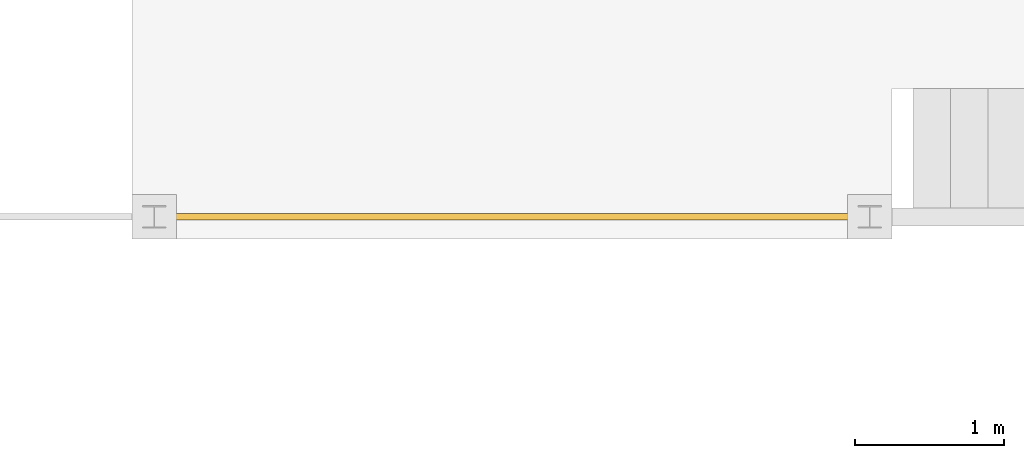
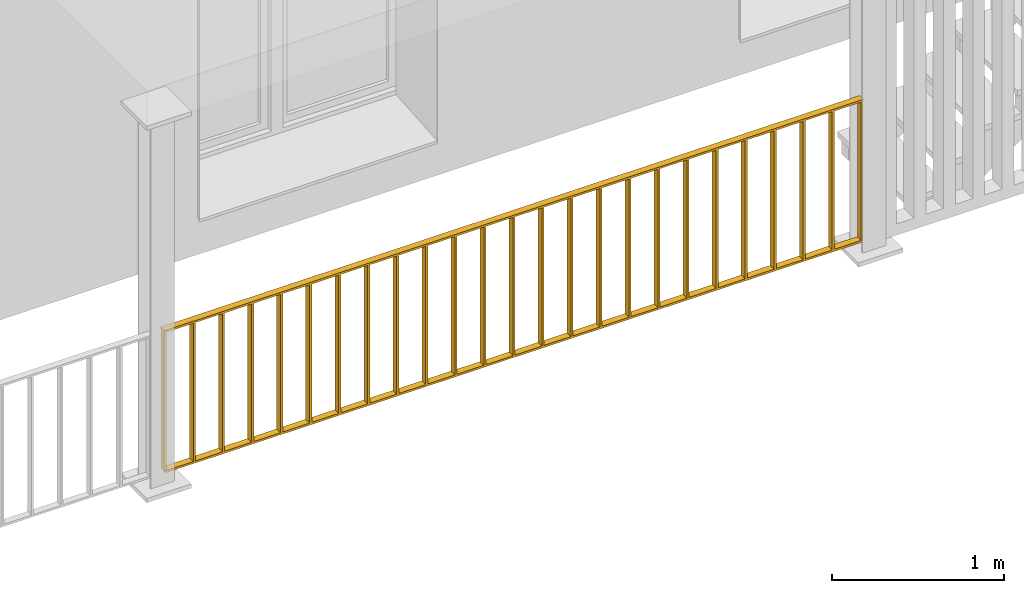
# One storey, part 20 of 34: 1 railing.
"""IFC4 building model written with IfcOpenShell, lengths in millimetres."""

from ifc_helpers import new_model, entity, si_unit, converted_unit, derived_unit, direction, frame, origin_with_axes, place, context, subcontext, project, spatial, polygons, material, constituent, constituent_set, type_object, element, save


model = new_model("IFC4")

# Units and contexts
model_context = context("Model", 3, precision=0.01, world=origin_with_axes(), true_north=direction((0.0, 1.0)))
body_context = subcontext(model_context, "Body", "Model", "MODEL_VIEW")
ifc_project = project(units=[si_unit("LENGTHUNIT", "METRE", prefix="MILLI"), si_unit("AREAUNIT", "SQUARE_METRE"), si_unit("VOLUMEUNIT", "CUBIC_METRE"), converted_unit("PLANEANGLEUNIT", "DEGREE", entity("IfcPlaneAngleMeasure", 0.0174532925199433), si_unit("PLANEANGLEUNIT", "RADIAN"), dimensions=[0, 0, 0, 0, 0, 0, 0]), converted_unit("TIMEUNIT", "Year", entity("IfcTimeMeasure", 31557600.0), si_unit("TIMEUNIT", "SECOND"), dimensions=[0, 0, 1, 0, 0, 0, 0]), si_unit("MASSUNIT", "GRAM", prefix="KILO"), si_unit("THERMODYNAMICTEMPERATUREUNIT", "DEGREE_CELSIUS"), si_unit("LUMINOUSINTENSITYUNIT", "LUMEN"), si_unit("ENERGYUNIT", "JOULE", prefix="MEGA"), derived_unit("THERMALCONDUCTANCEUNIT", [(si_unit("POWERUNIT", "WATT"), 1), (si_unit("LENGTHUNIT", "METRE"), -1), (si_unit("THERMODYNAMICTEMPERATUREUNIT", "KELVIN"), -1)]), derived_unit("SPECIFICHEATCAPACITYUNIT", [(si_unit("ENERGYUNIT", "JOULE"), 1), (si_unit("MASSUNIT", "GRAM", prefix="KILO"), -1), (si_unit("THERMODYNAMICTEMPERATUREUNIT", "KELVIN"), -1)]), derived_unit("MASSDENSITYUNIT", [(si_unit("MASSUNIT", "GRAM", prefix="KILO"), 1), (si_unit("VOLUMEUNIT", "CUBIC_METRE"), -1)])], contexts=[model_context])

# Site, building, storey
site_placement = place(None, origin_with_axes())
site = spatial("IfcSite", under=ifc_project, at=site_placement, Name="Gelände", CompositionType="ELEMENT")
building_placement = place(site_placement, origin_with_axes())
building = spatial("IfcBuilding", under=site, at=building_placement, Name="Gebäude", CompositionType="ELEMENT")
storey_placement = place(building_placement, frame((0.0, 0.0, 5799.999999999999), z_axis=(0.0, 0.0, 1.0), x_axis=(1.0, 0.0, 0.0)))
storey = spatial("IfcBuildingStorey", under=building, at=storey_placement, Name="2.OG", CompositionType="ELEMENT", Elevation=5800.0)

# Railing
ifc_material = material(Name="Stahl")
ifc_constituent_1 = constituent(ifc_material, Name="Stahl 1")
ifc_constituent_2 = constituent(ifc_material, Name="Stahl 2")
ifc_constituent_3 = constituent(ifc_material, Name="Stahl 3")
ifc_constituent_4 = constituent(ifc_material, Name="Stahl 4")
ifc_constituent_5 = constituent(ifc_material, Name="Stahl 5")
ifc_constituent_6 = constituent(ifc_material, Name="Stahl 6")
ifc_constituent_7 = constituent(ifc_material, Name="Stahl 7")
ifc_constituent_8 = constituent(ifc_material, Name="Stahl 8")
ifc_constituent_9 = constituent(ifc_material, Name="Stahl 9")
ifc_constituent_10 = constituent(ifc_material, Name="Stahl 10")
ifc_constituent_11 = constituent(ifc_material, Name="Stahl 11")
ifc_constituent_12 = constituent(ifc_material, Name="Stahl 12")
ifc_constituent_13 = constituent(ifc_material, Name="Stahl 13")
ifc_constituent_14 = constituent(ifc_material, Name="Stahl 14")
ifc_constituent_15 = constituent(ifc_material, Name="Stahl 15")
ifc_constituent_16 = constituent(ifc_material, Name="Stahl 16")
ifc_constituent_17 = constituent(ifc_material, Name="Stahl 17")
ifc_constituent_18 = constituent(ifc_material, Name="Stahl 18")
ifc_constituent_19 = constituent(ifc_material, Name="Stahl 19")
ifc_constituent_20 = constituent(ifc_material, Name="Stahl 20")
ifc_constituent_21 = constituent(ifc_material, Name="Stahl 21")
ifc_constituent_22 = constituent(ifc_material, Name="Stahl 22")
ifc_constituent_23 = constituent(ifc_material, Name="Stahl 23")
ifc_constituent_24 = constituent(ifc_material, Name="Stahl 24")
ifc_constituent_25 = constituent(ifc_material, Name="Stahl 25")
ifc_constituent_26 = constituent(ifc_material, Name="Stahl 26")
ifc_constituent_27 = constituent(ifc_material, Name="Stahl 27")
ifc_constituent_28 = constituent(ifc_material, Name="Stahl 28")
ifc_constituent_29 = constituent(ifc_material, Name="Stahl 29")
ifc_constituent_set = constituent_set(constituents=[ifc_constituent_1, ifc_constituent_2, ifc_constituent_3, ifc_constituent_4, ifc_constituent_5, ifc_constituent_6, ifc_constituent_7, ifc_constituent_8, ifc_constituent_9, ifc_constituent_10, ifc_constituent_11, ifc_constituent_12, ifc_constituent_13, ifc_constituent_14, ifc_constituent_15, ifc_constituent_16, ifc_constituent_17, ifc_constituent_18, ifc_constituent_19, ifc_constituent_20, ifc_constituent_21, ifc_constituent_22, ifc_constituent_23, ifc_constituent_24, ifc_constituent_25, ifc_constituent_26, ifc_constituent_27, ifc_constituent_28, ifc_constituent_29])
railing_type = type_object("IfcRailingType", Name="Geländerart", PredefinedType="NOTDEFINED")
railing_placement = place(storey_placement, frame((-3814.263643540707, 21097.59674077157, 49.99994801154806), z_axis=(0.0, 0.0, 1.0), x_axis=(1.0, 0.0, 0.0)))
element("IfcRailing", 1, at=railing_placement, inside=storey, type_object=railing_type, material=ifc_constituent_set, Name="Geländer-003", PredefinedType="NOTDEFINED", context=body_context, shape_type="Tessellation", body=[
    polygons([(196.5594620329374, -19.99999999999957, 0.0), (196.5594620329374, 19.99999999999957, 0.0), (196.5594620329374, 19.99999999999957, 1000.0), (196.5594620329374, -19.99999999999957, 1000.0), (181.5594620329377, -19.99999999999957, 0.0), (181.5594620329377, 19.99999999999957, 0.0), (181.5594620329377, 19.99999999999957, 1000.0), (181.5594620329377, -19.99999999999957, 1000.0)], [[[1, 2, 3, 4]], [[1, 5, 6, 2]], [[2, 6, 7, 3]], [[4, 3, 7, 8]], [[5, 1, 4, 8]], [[6, 5, 8, 7]]], closed=True),
    polygons([(189.0594620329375, 22.50000000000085, 1000.0), (189.0594620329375, 22.50000000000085, 985.0000000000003), (181.5594620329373, 22.50000000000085, 985.0000000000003), (181.5594620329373, 22.50000000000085, 1000.0), (189.0594620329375, -22.50000000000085, 1000.0), (189.0594620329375, -22.50000000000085, 985.0000000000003), (181.5594620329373, -22.50000000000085, 985.0000000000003), (181.5594620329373, -22.50000000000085, 1000.0)], [[[1, 2, 3, 4]], [[1, 5, 6, 2]], [[2, 6, 7, 3]], [[4, 3, 7, 8]], [[5, 1, 4, 8]], [[6, 5, 8, 7]]], closed=True),
    polygons([(4887.359462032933, -19.99999999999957, 0.0), (4887.359462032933, 19.99999999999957, 0.0), (4887.359462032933, 19.99999999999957, 1000.0), (4887.359462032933, -19.99999999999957, 1000.0), (4872.359462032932, -19.99999999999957, 0.0), (4872.359462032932, 19.99999999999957, 0.0), (4872.359462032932, 19.99999999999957, 1000.0), (4872.359462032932, -19.99999999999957, 1000.0)], [[[1, 2, 3, 4]], [[1, 5, 6, 2]], [[2, 6, 7, 3]], [[4, 3, 7, 8]], [[5, 1, 4, 8]], [[6, 5, 8, 7]]], closed=True),
    polygons([(4879.859462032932, -22.50000000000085, 1000.0), (4879.859462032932, -22.50000000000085, 985.0000000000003), (4887.359462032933, -22.50000000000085, 985.0000000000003), (4887.359462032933, -22.50000000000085, 1000.0), (4879.859462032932, 22.50000000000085, 1000.0), (4879.859462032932, 22.50000000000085, 985.0000000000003), (4887.359462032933, 22.50000000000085, 985.0000000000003), (4887.359462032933, 22.50000000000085, 1000.0)], [[[1, 2, 3, 4]], [[1, 5, 6, 2]], [[2, 6, 7, 3]], [[4, 3, 7, 8]], [[5, 1, 4, 8]], [[6, 5, 8, 7]]], closed=True),
    polygons([(189.0594620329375, -22.50000000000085, 0.9999999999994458), (189.0594620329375, -22.50000000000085, -14.00000000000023), (4879.859462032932, -22.50000000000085, -14.00000000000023), (4879.859462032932, -22.50000000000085, 0.9999999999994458), (189.0594620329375, 22.50000000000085, 0.9999999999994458), (189.0594620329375, 22.50000000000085, -14.00000000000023), (4879.859462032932, 22.50000000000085, -14.00000000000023), (4879.859462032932, 22.50000000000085, 0.9999999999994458)], [[[1, 2, 3, 4]], [[1, 5, 6, 2]], [[2, 6, 7, 3]], [[4, 3, 7, 8]], [[5, 1, 4, 8]], [[6, 5, 8, 7]]], closed=True),
    polygons([(189.0594620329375, -22.50000000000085, 1000.0), (189.0594620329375, -22.50000000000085, 985.0000000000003), (4879.859462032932, -22.50000000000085, 985.0000000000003), (4879.859462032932, -22.50000000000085, 1000.0), (189.0594620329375, 22.50000000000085, 1000.0), (189.0594620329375, 22.50000000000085, 985.0000000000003), (4879.859462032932, 22.50000000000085, 985.0000000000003), (4879.859462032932, 22.50000000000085, 1000.0)], [[[1, 2, 3, 4]], [[1, 5, 6, 2]], [[2, 6, 7, 3]], [[4, 3, 7, 8]], [[5, 1, 4, 8]], [[6, 5, 8, 7]]], closed=True),
    polygons([(392.0094620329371, -22.50000000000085, 0.0), (392.0094620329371, 22.50000000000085, 0.0), (392.0094620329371, 22.50000000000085, 985.2293691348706), (392.0094620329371, -22.50000000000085, 985.2293691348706), (377.0094620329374, -22.50000000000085, 0.0), (377.0094620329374, 22.50000000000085, 0.0), (377.0094620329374, 22.50000000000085, 985.2293691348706), (377.0094620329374, -22.50000000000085, 985.2293691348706)], [[[1, 2, 3, 4]], [[1, 5, 6, 2]], [[2, 6, 7, 3]], [[4, 3, 7, 8]], [[5, 1, 4, 8]], [[6, 5, 8, 7]]], closed=True),
    polygons([(587.4594620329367, -22.50000000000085, 0.0), (587.4594620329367, 22.50000000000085, 0.0), (587.4594620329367, 22.50000000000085, 985.2293691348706), (587.4594620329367, -22.50000000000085, 985.2293691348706), (572.459462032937, -22.50000000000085, 0.0), (572.459462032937, 22.50000000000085, 0.0), (572.459462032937, 22.50000000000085, 985.2293691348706), (572.459462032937, -22.50000000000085, 985.2293691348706)], [[[1, 2, 3, 4]], [[1, 5, 6, 2]], [[2, 6, 7, 3]], [[4, 3, 7, 8]], [[5, 1, 4, 8]], [[6, 5, 8, 7]]], closed=True),
    polygons([(782.9094620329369, -22.50000000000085, 0.0), (782.9094620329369, 22.50000000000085, 0.0), (782.9094620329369, 22.50000000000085, 985.2293691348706), (782.9094620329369, -22.50000000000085, 985.2293691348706), (767.9094620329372, -22.50000000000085, 0.0), (767.9094620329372, 22.50000000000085, 0.0), (767.9094620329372, 22.50000000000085, 985.2293691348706), (767.9094620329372, -22.50000000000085, 985.2293691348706)], [[[1, 2, 3, 4]], [[1, 5, 6, 2]], [[2, 6, 7, 3]], [[4, 3, 7, 8]], [[5, 1, 4, 8]], [[6, 5, 8, 7]]], closed=True),
    polygons([(978.3594620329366, -22.50000000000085, 0.0), (978.3594620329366, 22.50000000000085, 0.0), (978.3594620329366, 22.50000000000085, 985.2293691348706), (978.3594620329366, -22.50000000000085, 985.2293691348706), (963.3594620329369, -22.50000000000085, 0.0), (963.3594620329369, 22.50000000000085, 0.0), (963.3594620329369, 22.50000000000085, 985.2293691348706), (963.3594620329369, -22.50000000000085, 985.2293691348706)], [[[1, 2, 3, 4]], [[1, 5, 6, 2]], [[2, 6, 7, 3]], [[4, 3, 7, 8]], [[5, 1, 4, 8]], [[6, 5, 8, 7]]], closed=True),
    polygons([(1173.809462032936, -22.50000000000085, 0.0), (1173.809462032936, 22.50000000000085, 0.0), (1173.809462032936, 22.50000000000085, 985.2293691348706), (1173.809462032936, -22.50000000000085, 985.2293691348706), (1158.809462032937, -22.50000000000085, 0.0), (1158.809462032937, 22.50000000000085, 0.0), (1158.809462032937, 22.50000000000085, 985.2293691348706), (1158.809462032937, -22.50000000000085, 985.2293691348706)], [[[1, 2, 3, 4]], [[1, 5, 6, 2]], [[2, 6, 7, 3]], [[4, 3, 7, 8]], [[5, 1, 4, 8]], [[6, 5, 8, 7]]], closed=True),
    polygons([(1369.259462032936, -22.50000000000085, 0.0), (1369.259462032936, 22.50000000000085, 0.0), (1369.259462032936, 22.50000000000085, 985.2293691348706), (1369.259462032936, -22.50000000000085, 985.2293691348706), (1354.259462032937, -22.50000000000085, 0.0), (1354.259462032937, 22.50000000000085, 0.0), (1354.259462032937, 22.50000000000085, 985.2293691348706), (1354.259462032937, -22.50000000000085, 985.2293691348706)], [[[1, 2, 3, 4]], [[1, 5, 6, 2]], [[2, 6, 7, 3]], [[4, 3, 7, 8]], [[5, 1, 4, 8]], [[6, 5, 8, 7]]], closed=True),
    polygons([(1564.709462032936, -22.50000000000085, 0.0), (1564.709462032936, 22.50000000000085, 0.0), (1564.709462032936, 22.50000000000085, 985.2293691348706), (1564.709462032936, -22.50000000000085, 985.2293691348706), (1549.709462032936, -22.50000000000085, 0.0), (1549.709462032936, 22.50000000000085, 0.0), (1549.709462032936, 22.50000000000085, 985.2293691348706), (1549.709462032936, -22.50000000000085, 985.2293691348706)], [[[1, 2, 3, 4]], [[1, 5, 6, 2]], [[2, 6, 7, 3]], [[4, 3, 7, 8]], [[5, 1, 4, 8]], [[6, 5, 8, 7]]], closed=True),
    polygons([(1760.159462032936, -22.50000000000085, 0.0), (1760.159462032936, 22.50000000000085, 0.0), (1760.159462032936, 22.50000000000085, 985.2293691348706), (1760.159462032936, -22.50000000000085, 985.2293691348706), (1745.159462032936, -22.50000000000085, 0.0), (1745.159462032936, 22.50000000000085, 0.0), (1745.159462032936, 22.50000000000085, 985.2293691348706), (1745.159462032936, -22.50000000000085, 985.2293691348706)], [[[1, 2, 3, 4]], [[1, 5, 6, 2]], [[2, 6, 7, 3]], [[4, 3, 7, 8]], [[5, 1, 4, 8]], [[6, 5, 8, 7]]], closed=True),
    polygons([(1955.609462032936, -22.50000000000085, 0.0), (1955.609462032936, 22.50000000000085, 0.0), (1955.609462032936, 22.50000000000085, 985.2293691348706), (1955.609462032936, -22.50000000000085, 985.2293691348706), (1940.609462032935, -22.50000000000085, 0.0), (1940.609462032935, 22.50000000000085, 0.0), (1940.609462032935, 22.50000000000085, 985.2293691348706), (1940.609462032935, -22.50000000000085, 985.2293691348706)], [[[1, 2, 3, 4]], [[1, 5, 6, 2]], [[2, 6, 7, 3]], [[4, 3, 7, 8]], [[5, 1, 4, 8]], [[6, 5, 8, 7]]], closed=True),
    polygons([(2151.059462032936, -22.50000000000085, 0.0), (2151.059462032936, 22.50000000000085, 0.0), (2151.059462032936, 22.50000000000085, 985.2293691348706), (2151.059462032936, -22.50000000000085, 985.2293691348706), (2136.059462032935, -22.50000000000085, 0.0), (2136.059462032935, 22.50000000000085, 0.0), (2136.059462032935, 22.50000000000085, 985.2293691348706), (2136.059462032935, -22.50000000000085, 985.2293691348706)], [[[1, 2, 3, 4]], [[1, 5, 6, 2]], [[2, 6, 7, 3]], [[4, 3, 7, 8]], [[5, 1, 4, 8]], [[6, 5, 8, 7]]], closed=True),
    polygons([(2346.509462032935, -22.50000000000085, 0.0), (2346.509462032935, 22.50000000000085, 0.0), (2346.509462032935, 22.50000000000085, 985.2293691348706), (2346.509462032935, -22.50000000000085, 985.2293691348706), (2331.509462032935, -22.50000000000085, 0.0), (2331.509462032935, 22.50000000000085, 0.0), (2331.509462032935, 22.50000000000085, 985.2293691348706), (2331.509462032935, -22.50000000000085, 985.2293691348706)], [[[1, 2, 3, 4]], [[1, 5, 6, 2]], [[2, 6, 7, 3]], [[4, 3, 7, 8]], [[5, 1, 4, 8]], [[6, 5, 8, 7]]], closed=True),
    polygons([(2541.959462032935, -22.50000000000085, 0.0), (2541.959462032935, 22.50000000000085, 0.0), (2541.959462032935, 22.50000000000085, 985.2293691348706), (2541.959462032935, -22.50000000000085, 985.2293691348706), (2526.959462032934, -22.50000000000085, 0.0), (2526.959462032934, 22.50000000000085, 0.0), (2526.959462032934, 22.50000000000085, 985.2293691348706), (2526.959462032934, -22.50000000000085, 985.2293691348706)], [[[1, 2, 3, 4]], [[1, 5, 6, 2]], [[2, 6, 7, 3]], [[4, 3, 7, 8]], [[5, 1, 4, 8]], [[6, 5, 8, 7]]], closed=True),
    polygons([(2737.409462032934, -22.50000000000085, 0.0), (2737.409462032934, 22.50000000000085, 0.0), (2737.409462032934, 22.50000000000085, 985.2293691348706), (2737.409462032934, -22.50000000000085, 985.2293691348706), (2722.409462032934, -22.50000000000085, 0.0), (2722.409462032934, 22.50000000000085, 0.0), (2722.409462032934, 22.50000000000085, 985.2293691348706), (2722.409462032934, -22.50000000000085, 985.2293691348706)], [[[1, 2, 3, 4]], [[1, 5, 6, 2]], [[2, 6, 7, 3]], [[4, 3, 7, 8]], [[5, 1, 4, 8]], [[6, 5, 8, 7]]], closed=True),
    polygons([(2932.859462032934, -22.50000000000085, 0.0), (2932.859462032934, 22.50000000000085, 0.0), (2932.859462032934, 22.50000000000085, 985.2293691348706), (2932.859462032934, -22.50000000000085, 985.2293691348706), (2917.859462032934, -22.50000000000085, 0.0), (2917.859462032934, 22.50000000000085, 0.0), (2917.859462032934, 22.50000000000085, 985.2293691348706), (2917.859462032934, -22.50000000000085, 985.2293691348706)], [[[1, 2, 3, 4]], [[1, 5, 6, 2]], [[2, 6, 7, 3]], [[4, 3, 7, 8]], [[5, 1, 4, 8]], [[6, 5, 8, 7]]], closed=True),
    polygons([(3128.309462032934, -22.50000000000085, 0.0), (3128.309462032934, 22.50000000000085, 0.0), (3128.309462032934, 22.50000000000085, 985.2293691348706), (3128.309462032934, -22.50000000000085, 985.2293691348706), (3113.309462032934, -22.50000000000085, 0.0), (3113.309462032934, 22.50000000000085, 0.0), (3113.309462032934, 22.50000000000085, 985.2293691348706), (3113.309462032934, -22.50000000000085, 985.2293691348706)], [[[1, 2, 3, 4]], [[1, 5, 6, 2]], [[2, 6, 7, 3]], [[4, 3, 7, 8]], [[5, 1, 4, 8]], [[6, 5, 8, 7]]], closed=True),
    polygons([(3323.759462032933, -22.50000000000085, 0.0), (3323.759462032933, 22.50000000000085, 0.0), (3323.759462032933, 22.50000000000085, 985.2293691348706), (3323.759462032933, -22.50000000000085, 985.2293691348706), (3308.759462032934, -22.50000000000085, 0.0), (3308.759462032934, 22.50000000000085, 0.0), (3308.759462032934, 22.50000000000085, 985.2293691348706), (3308.759462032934, -22.50000000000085, 985.2293691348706)], [[[1, 2, 3, 4]], [[1, 5, 6, 2]], [[2, 6, 7, 3]], [[4, 3, 7, 8]], [[5, 1, 4, 8]], [[6, 5, 8, 7]]], closed=True),
    polygons([(3519.209462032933, -22.50000000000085, 0.0), (3519.209462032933, 22.50000000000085, 0.0), (3519.209462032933, 22.50000000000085, 985.2293691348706), (3519.209462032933, -22.50000000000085, 985.2293691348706), (3504.209462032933, -22.50000000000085, 0.0), (3504.209462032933, 22.50000000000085, 0.0), (3504.209462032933, 22.50000000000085, 985.2293691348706), (3504.209462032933, -22.50000000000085, 985.2293691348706)], [[[1, 2, 3, 4]], [[1, 5, 6, 2]], [[2, 6, 7, 3]], [[4, 3, 7, 8]], [[5, 1, 4, 8]], [[6, 5, 8, 7]]], closed=True),
    polygons([(3714.659462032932, -22.50000000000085, 0.0), (3714.659462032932, 22.50000000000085, 0.0), (3714.659462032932, 22.50000000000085, 985.2293691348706), (3714.659462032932, -22.50000000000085, 985.2293691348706), (3699.659462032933, -22.50000000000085, 0.0), (3699.659462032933, 22.50000000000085, 0.0), (3699.659462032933, 22.50000000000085, 985.2293691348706), (3699.659462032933, -22.50000000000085, 985.2293691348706)], [[[1, 2, 3, 4]], [[1, 5, 6, 2]], [[2, 6, 7, 3]], [[4, 3, 7, 8]], [[5, 1, 4, 8]], [[6, 5, 8, 7]]], closed=True),
    polygons([(3910.109462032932, -22.50000000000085, 0.0), (3910.109462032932, 22.50000000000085, 0.0), (3910.109462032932, 22.50000000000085, 985.2293691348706), (3910.109462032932, -22.50000000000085, 985.2293691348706), (3895.109462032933, -22.50000000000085, 0.0), (3895.109462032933, 22.50000000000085, 0.0), (3895.109462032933, 22.50000000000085, 985.2293691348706), (3895.109462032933, -22.50000000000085, 985.2293691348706)], [[[1, 2, 3, 4]], [[1, 5, 6, 2]], [[2, 6, 7, 3]], [[4, 3, 7, 8]], [[5, 1, 4, 8]], [[6, 5, 8, 7]]], closed=True),
    polygons([(4105.559462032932, -22.50000000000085, 0.0), (4105.559462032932, 22.50000000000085, 0.0), (4105.559462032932, 22.50000000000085, 985.2293691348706), (4105.559462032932, -22.50000000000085, 985.2293691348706), (4090.559462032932, -22.50000000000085, 0.0), (4090.559462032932, 22.50000000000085, 0.0), (4090.559462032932, 22.50000000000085, 985.2293691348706), (4090.559462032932, -22.50000000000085, 985.2293691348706)], [[[1, 2, 3, 4]], [[1, 5, 6, 2]], [[2, 6, 7, 3]], [[4, 3, 7, 8]], [[5, 1, 4, 8]], [[6, 5, 8, 7]]], closed=True),
    polygons([(4301.009462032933, -22.50000000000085, 0.0), (4301.009462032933, 22.50000000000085, 0.0), (4301.009462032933, 22.50000000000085, 985.2293691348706), (4301.009462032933, -22.50000000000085, 985.2293691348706), (4286.009462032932, -22.50000000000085, 0.0), (4286.009462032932, 22.50000000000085, 0.0), (4286.009462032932, 22.50000000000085, 985.2293691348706), (4286.009462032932, -22.50000000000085, 985.2293691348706)], [[[1, 2, 3, 4]], [[1, 5, 6, 2]], [[2, 6, 7, 3]], [[4, 3, 7, 8]], [[5, 1, 4, 8]], [[6, 5, 8, 7]]], closed=True),
    polygons([(4496.459462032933, -22.50000000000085, 0.0), (4496.459462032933, 22.50000000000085, 0.0), (4496.459462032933, 22.50000000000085, 985.2293691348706), (4496.459462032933, -22.50000000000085, 985.2293691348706), (4481.459462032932, -22.50000000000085, 0.0), (4481.459462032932, 22.50000000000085, 0.0), (4481.459462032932, 22.50000000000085, 985.2293691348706), (4481.459462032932, -22.50000000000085, 985.2293691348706)], [[[1, 2, 3, 4]], [[1, 5, 6, 2]], [[2, 6, 7, 3]], [[4, 3, 7, 8]], [[5, 1, 4, 8]], [[6, 5, 8, 7]]], closed=True),
    polygons([(4691.909462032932, -22.50000000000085, 0.0), (4691.909462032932, 22.50000000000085, 0.0), (4691.909462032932, 22.50000000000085, 985.2293691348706), (4691.909462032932, -22.50000000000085, 985.2293691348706), (4676.909462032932, -22.50000000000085, 0.0), (4676.909462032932, 22.50000000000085, 0.0), (4676.909462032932, 22.50000000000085, 985.2293691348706), (4676.909462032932, -22.50000000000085, 985.2293691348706)], [[[1, 2, 3, 4]], [[1, 5, 6, 2]], [[2, 6, 7, 3]], [[4, 3, 7, 8]], [[5, 1, 4, 8]], [[6, 5, 8, 7]]], closed=True),
])

save(model, "model.ifc")
